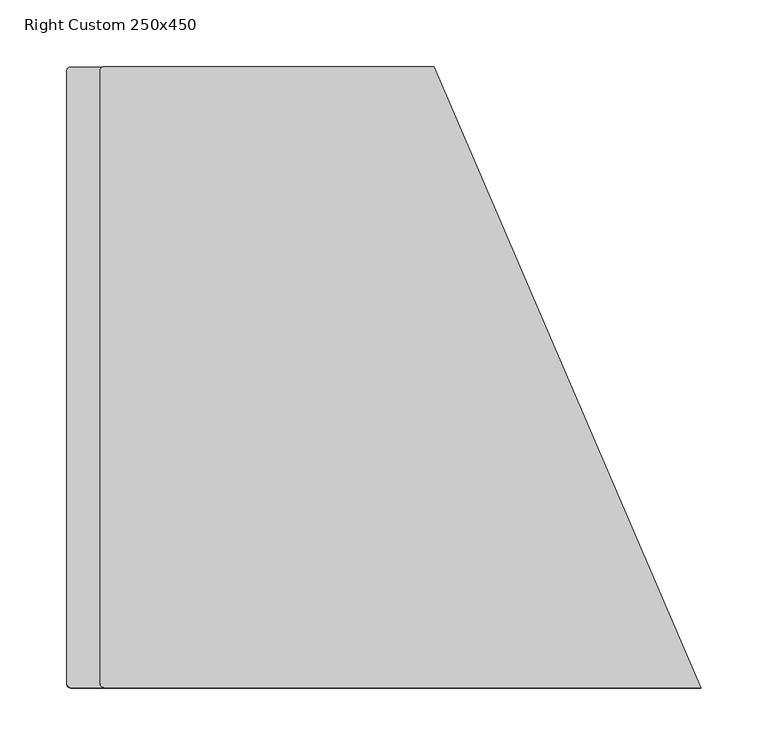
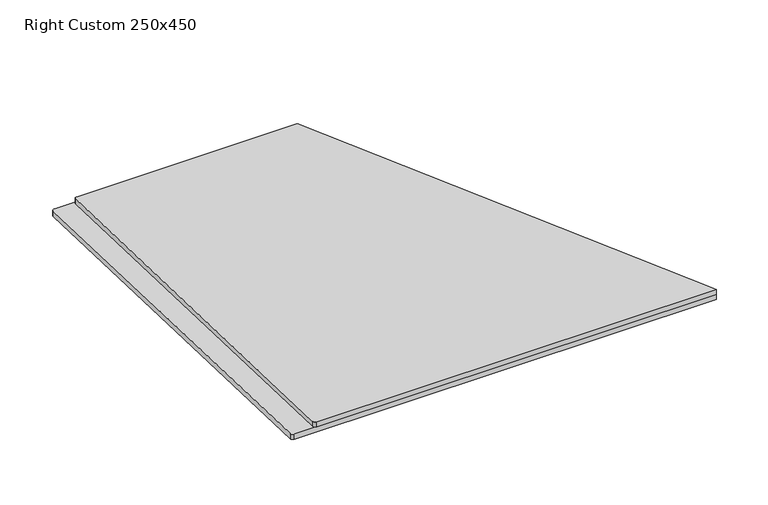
"""IFC4 building model written with IfcOpenShell, lengths in millimetres: proxy geometry, ML-PR-M-P-BLACK-N-CUSTOM : Right Custom 250x450."""

from ifc_helpers import new_model, si_unit, point, frame, frame_2d, origin, place, context, project, spatial, polyline, circle_curve, trimmed, segment, composite_curve, outline, extrude, source, transform, mapped, element, save


def right_custom_250x450_20a4991b(model_context):
    return source(origin(), model_context, "Body", "SweptSolid", [
        extrude(outline(composite_curve([segment(polyline([(247.0, 0.0), (447.0, -465.0), (0.0, -465.0)]), True, "CONTINUOUS"), segment(trimmed(circle_curve(frame_2d((0.0, -462.0)), 3.0), [point((0.0, -465.0))], [point((-3.0, -462.0))], False, "CARTESIAN"), True, "CONTINUOUS"), segment(polyline([(-3.0, -462.0), (-3.0, -3.0)]), True, "CONTINUOUS"), segment(trimmed(circle_curve(frame_2d((0.0, -3.0)), 3.0), [point((-3.0, -3.0))], [point((0.0, 0.0))], False, "CARTESIAN"), True, "CONTINUOUS"), segment(polyline([(0.0, 0.0), (247.0, 0.0)]), True, "CONTINUOUS")], self_intersect=False)), frame((4.0, 36.0799579, 4.8006671), z_axis=(0.0, 0.03331483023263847, 0.9994449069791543), x_axis=(1.0, 0.0, 0.0)), (0.0, 0.0, 1.0), 5.5),
        extrude(outline(composite_curve([segment(polyline([(272.0, 0.0), (472.0, -465.0), (0.0, -465.0)]), True, "CONTINUOUS"), segment(trimmed(circle_curve(frame_2d((0.0, -462.0)), 3.0), [point((0.0, -465.0))], [point((-3.0, -462.0))], False, "CARTESIAN"), True, "CONTINUOUS"), segment(polyline([(-3.0, -462.0), (-3.0, -3.0)]), True, "CONTINUOUS"), segment(trimmed(circle_curve(frame_2d((0.0, -3.0)), 3.0), [point((-3.0, -3.0))], [point((0.0, 0.0))], False, "CARTESIAN"), True, "CONTINUOUS"), segment(polyline([(0.0, 0.0), (272.0, 0.0)]), True, "CONTINUOUS")], self_intersect=False)), frame((-21.0, 35.8800689, -1.1960023), z_axis=(0.0, 0.03331483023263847, 0.9994449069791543), x_axis=(1.0, 0.0, 0.0)), (0.0, 0.0, 1.0), 6.0),
    ])


if __name__ == "__main__":
    model = new_model("IFC4")
    model_context = context("Model", 3, world=origin())
    ifc_project = project(units=[si_unit("LENGTHUNIT", "METRE", prefix="MILLI")], contexts=[model_context])
    site = spatial("IfcSite", under=ifc_project)
    building = spatial("IfcBuilding", under=site)
    placement = place(None, origin())
    right_custom_250x450_shape = right_custom_250x450_20a4991b(model_context)
    element("IfcBuildingElementProxy", 1, Name="ML-PR-M-P-BLACK-N-CUSTOM : Right Custom 250x450", ObjectType="ML-PR-M-P-BLACK-N-CUSTOM : Right Custom 250x450", at=placement, inside=building, context=model_context, shape_type="MappedRepresentation", body=[
        mapped(right_custom_250x450_shape, transform((0.0, 0.0, 0.0), x_axis=(1.0, 0.0, 0.0), y_axis=(0.0, 1.0, 0.0), z_axis=(0.0, 0.0, 1.0))),
    ])
    save(model, "model.ifc")
